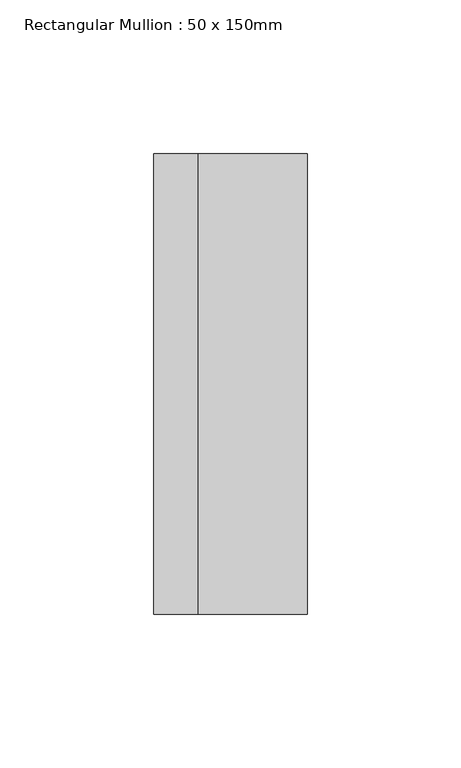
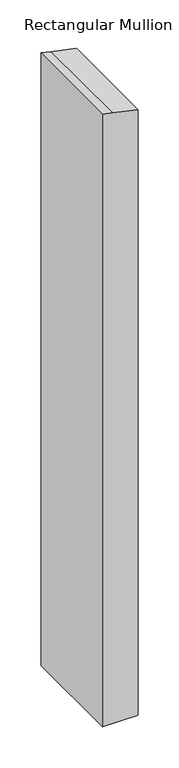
"""IFC4 building model written with IfcOpenShell, lengths in millimetres: member geometry, Rectangular Mullion : 50 x 150mm."""

import ifcopenshell
import ifcopenshell.guid

model = None  # the IFC model being written
_history = None  # IfcOwnerHistory: only IFC2X3 demands one
_inside = {}  # id of a spatial element -> (the spatial element, [elements in it])
_under = {}  # id of a project, library or spatial element -> (it, [spatial elements below it])
_declared = {}  # id of a project -> (the project, [libraries it declares])
_typed = {}  # id of a type object -> (the type object, [elements of that type])
_made_of = {}  # id of a material, layer set ... -> (it, [elements and type objects made of it])


def new_model(schema):
    """Start an empty IFC model of exactly this schema.

    Asked for "IFC4X3", IfcOpenShell would pick the latest addendum, in which some entities
    have other attributes; the version numbers below select the first issue.
    IFC2X3 requires an IfcOwnerHistory on every rooted entity: one is made here for all.
    """
    global model, _history
    if schema == "IFC4X3":
        model = ifcopenshell.file(schema_version=(4, 3, 0, 0))
    else:
        model = ifcopenshell.file(schema=schema)
    _inside.clear()
    _under.clear()
    _declared.clear()
    _typed.clear()
    _made_of.clear()
    _history = None
    if model.schema == "IFC2X3":
        org = make("IfcOrganization", Name="unknown")
        user = make(
            "IfcPersonAndOrganization",
            ThePerson=make("IfcPerson", FamilyName="unknown"),
            TheOrganization=org,
        )
        app = make(
            "IfcApplication",
            ApplicationDeveloper=org,
            Version="unknown",
            ApplicationFullName="unknown",
            ApplicationIdentifier="unknown",
        )
        _history = make(
            "IfcOwnerHistory",
            OwningUser=user,
            OwningApplication=app,
            ChangeAction="ADDED",
            CreationDate=0,
        )
    return model


def make(cls, **values):
    """One entity of the class cls with the attributes given. An attribute that is None is left unset."""
    return model.create_entity(
        cls, **{name: value for name, value in values.items() if value is not None}
    )


def rooted(cls, **values):
    """An entity with a GlobalId (a new one), such as an element, a storey or a relation."""
    return make(cls, GlobalId=ifcopenshell.guid.new(), OwnerHistory=_history, **values)


def si_unit(unit_type, name, prefix=None):
    """IfcSIUnit, for example si_unit("LENGTHUNIT", "METRE", prefix="MILLI")."""
    return make("IfcSIUnit", UnitType=unit_type, Prefix=prefix, Name=name)


def assignment(units):
    """IfcUnitAssignment: the units of a project."""
    return None if units is None else make("IfcUnitAssignment", Units=units)


def point(xyz):
    """IfcCartesianPoint."""
    return None if xyz is None else make("IfcCartesianPoint", Coordinates=xyz)


def direction(xyz):
    """IfcDirection."""
    return None if xyz is None else make("IfcDirection", DirectionRatios=xyz)


def frame(location, z_axis=None, x_axis=None):
    """IfcAxis2Placement3D, a coordinate frame: its origin and axes. An axis left out is left unset."""
    return make(
        "IfcAxis2Placement3D",
        Location=point(location),
        Axis=direction(z_axis),
        RefDirection=direction(x_axis),
    )


def origin():
    """The frame at (0, 0, 0) with its axes left unset."""
    return frame((0.0, 0.0, 0.0))


def place(relative_to, where):
    """IfcLocalPlacement: puts the frame where relative to a parent placement (None: the world)."""
    return make(
        "IfcLocalPlacement", PlacementRelTo=relative_to, RelativePlacement=where
    )


def context(
    kind, dimensions, precision=None, world=None, true_north=None, identifier=None
):
    """IfcGeometricRepresentationContext, for example the 3D "Model" context."""
    return make(
        "IfcGeometricRepresentationContext",
        ContextIdentifier=identifier,
        ContextType=kind,
        CoordinateSpaceDimension=dimensions,
        Precision=precision,
        WorldCoordinateSystem=world,
        TrueNorth=true_north,
    )


def project(units=None, contexts=None):
    """IfcProject with its units and contexts."""
    return rooted(
        "IfcProject",
        Name="project",
        RepresentationContexts=contexts,
        UnitsInContext=assignment(units),
    )


def spatial(cls, under=None, at=None, **own):
    """A site, building, storey or space (cls), placed at a placement, below another one or the project."""
    s = rooted(cls, ObjectPlacement=at, **own)
    if under is not None:
        _under.setdefault(under.id(), (under, []))[1].append(s)
    return s


def polyline(points):
    """IfcPolyline through the points."""
    return make("IfcPolyline", Points=[point(p) for p in points])


def outline(outer, holes=None, kind="AREA"):
    """IfcArbitraryClosedProfileDef: a profile drawn as a closed curve; with holes, ...WithVoids."""
    if holes is None:
        return make("IfcArbitraryClosedProfileDef", ProfileType=kind, OuterCurve=outer)
    return make(
        "IfcArbitraryProfileDefWithVoids",
        ProfileType=kind,
        OuterCurve=outer,
        InnerCurves=holes,
    )


def extrude(swept, where, along, depth):
    """IfcExtrudedAreaSolid: the profile swept, set in the frame where, extruded along a direction by depth."""
    return make(
        "IfcExtrudedAreaSolid",
        SweptArea=swept,
        Position=where,
        ExtrudedDirection=direction(along),
        Depth=depth,
    )


def shape(context_of_items, identifier, shape_type, items):
    """IfcShapeRepresentation: the items that make up one representation, for example the "Body"."""
    return make(
        "IfcShapeRepresentation",
        ContextOfItems=context_of_items,
        RepresentationIdentifier=identifier,
        RepresentationType=shape_type,
        Items=items,
    )


def source(mapping_origin, context_of_items, identifier, shape_type, items):
    """IfcRepresentationMap: a shape defined once, which mapped items show again and again."""
    return make(
        "IfcRepresentationMap",
        MappingOrigin=mapping_origin,
        MappedRepresentation=shape(context_of_items, identifier, shape_type, items),
    )


def transform(
    local_origin,
    x_axis=None,
    y_axis=None,
    z_axis=None,
    scale=None,
    scale2=None,
    scale3=None,
    uniform=True,
):
    """IfcCartesianTransformationOperator3D, or its non-uniform kind. x_axis, y_axis, z_axis: its Axis1, 2, 3."""
    if uniform:
        return make(
            "IfcCartesianTransformationOperator3D",
            Axis1=direction(x_axis),
            Axis2=direction(y_axis),
            LocalOrigin=point(local_origin),
            Scale=scale,
            Axis3=direction(z_axis),
        )
    return make(
        "IfcCartesianTransformationOperator3DnonUniform",
        Axis1=direction(x_axis),
        Axis2=direction(y_axis),
        LocalOrigin=point(local_origin),
        Scale=scale,
        Axis3=direction(z_axis),
        Scale2=scale2,
        Scale3=scale3,
    )


def mapped(mapping_source, mapping_target):
    """IfcMappedItem: shows the shape of a source again, moved by a transform."""
    return make(
        "IfcMappedItem", MappingSource=mapping_source, MappingTarget=mapping_target
    )


def made_of(thing, what):
    """Note that an element or type object is made of a material, layer set ...; save() writes the relation."""
    if what is not None:
        _made_of.setdefault(what.id(), (what, []))[1].append(thing)
    return thing


def element(
    cls,
    number,
    at=None,
    inside=None,
    cuts=None,
    type_object=None,
    material=None,
    context=None,
    identifier="Body",
    shape_type=None,
    held_by="IfcProductDefinitionShape",
    body=None,
    shapes=None,
    **own,
):
    """One element of the class cls, such as IfcWall. Its Tag is "e" and its number.

    at: its placement. inside: the storey or other place that contains it. cuts: it is an
    opening in that element (IfcRelVoidsElement). A single representation is given by context,
    identifier, shape_type and body (its items); several are given by shapes. held_by: the class
    of the entity that holds the representations. save() writes the other relations.
    """
    e = rooted(cls, Tag="e%d" % number, ObjectPlacement=at, **own)
    if body is not None:
        shapes = [shape(context, identifier, shape_type, body)]
    if shapes is not None:
        e.Representation = make(held_by, Representations=shapes)
    if inside is not None:
        _inside.setdefault(inside.id(), (inside, []))[1].append(e)
    if cuts is not None:
        rooted(
            "IfcRelVoidsElement", RelatingBuildingElement=cuts, RelatedOpeningElement=e
        )
    if type_object is not None:
        _typed.setdefault(type_object.id(), (type_object, []))[1].append(e)
    return made_of(e, material)


def aggregate(whole, parts):
    """IfcRelAggregates: a whole, such as a stair, and the parts it consists of."""
    return rooted("IfcRelAggregates", RelatingObject=whole, RelatedObjects=parts)


def save(model, path):
    """Write the relations noted so far, then the file.

    IfcRelAggregates (storeys below a building ...), IfcRelContainedInSpatialStructure (elements
    in a storey), IfcRelDefinesByType, IfcRelAssociatesMaterial and IfcRelDeclares: one each for
    every whole, place, type object, material and project.
    """
    for whole, parts in _under.values():
        aggregate(whole, parts)
    for where, things in _inside.values():
        rooted(
            "IfcRelContainedInSpatialStructure",
            RelatedElements=things,
            RelatingStructure=where,
        )
    for kind, things in _typed.values():
        rooted("IfcRelDefinesByType", RelatedObjects=things, RelatingType=kind)
    for what, things in _made_of.values():
        rooted("IfcRelAssociatesMaterial", RelatedObjects=things, RelatingMaterial=what)
    for by, libraries in _declared.values():
        rooted("IfcRelDeclares", RelatingContext=by, RelatedDefinitions=libraries)
    model.write(path)


def rectangular_mullion_50_x_150mm_ab824ad0(model_context):
    return source(origin(), model_context, "Body", "SweptSolid", [
        extrude(outline(polyline([(-56.4764416, 25.0), (-48.8945724, -10.4556584), (-45.7843976, -25.0), (-955.6520262, -25.0), (-955.6520262, 25.0), (-56.4764416, 25.0)])), frame((0.0, -75.0, 0.0), z_axis=(0.0, 1.0, 0.0), x_axis=(0.0, 0.0, 1.0)), (0.0, 0.0, 1.0), 150.0),
    ])


if __name__ == "__main__":
    model = new_model("IFC4")
    model_context = context("Model", 3, world=origin())
    ifc_project = project(units=[si_unit("LENGTHUNIT", "METRE", prefix="MILLI")], contexts=[model_context])
    site = spatial("IfcSite", under=ifc_project)
    building = spatial("IfcBuilding", under=site)
    placement = place(None, origin())
    rectangular_mullion_50_x_150mm_shape = rectangular_mullion_50_x_150mm_ab824ad0(model_context)
    element("IfcMember", 1, ObjectType="Rectangular Mullion : 50 x 150mm", at=placement, inside=building, context=model_context, shape_type="MappedRepresentation", body=[
        mapped(rectangular_mullion_50_x_150mm_shape, transform((0.0, 0.0, 0.0), x_axis=(1.0, 0.0, 0.0), y_axis=(0.0, 1.0, 0.0), z_axis=(0.0, 0.0, 1.0))),
    ])
    save(model, "model.ifc")
